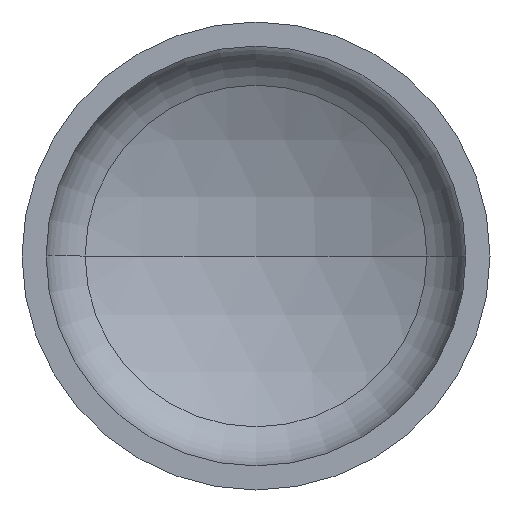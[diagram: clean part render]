
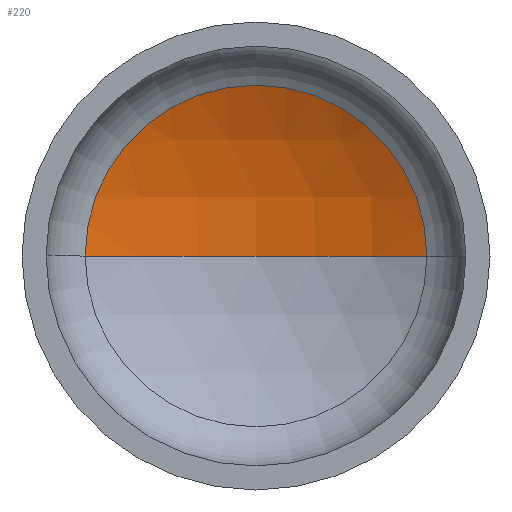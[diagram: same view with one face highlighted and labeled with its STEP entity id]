
A CAD part, front view. The second image highlights one B-rep face of the part: STEP entity #220.
In plain terms, the highlighted spherical face has radius 1120 mm.
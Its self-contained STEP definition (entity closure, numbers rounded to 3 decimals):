
#41 = EDGE_LOOP ( 'NONE', ( #214, #108, #58 ) ) ;
#44 = VERTEX_POINT ( 'NONE', #262 ) ;
#58 = ORIENTED_EDGE ( 'NONE', *, *, #202, .T. ) ;
#91 = VERTEX_POINT ( 'NONE', #258 ) ;
#96 = CARTESIAN_POINT ( 'NONE',  ( 0., 311.307, 0. ) ) ;
#98 = AXIS2_PLACEMENT_3D ( 'NONE', #285, #309, #157 ) ;
#108 = ORIENTED_EDGE ( 'NONE', *, *, #205, .T. ) ;
#109 = AXIS2_PLACEMENT_3D ( 'NONE', #226, #229, #278 ) ;
#110 = AXIS2_PLACEMENT_3D ( 'NONE', #181, #174, #215 ) ;
#111 = FACE_OUTER_BOUND ( 'NONE', #41, .T. ) ;
#112 = AXIS2_PLACEMENT_3D ( 'NONE', #96, #195, #177 ) ;
#132 = CIRCLE ( 'NONE', #112, 511.116 ) ;
#152 = VERTEX_POINT ( 'NONE', #332 ) ;
#157 = DIRECTION ( 'NONE',  ( -1., 0., 0. ) ) ;
#174 = DIRECTION ( 'NONE',  ( 0., 0., -1. ) ) ;
#177 = DIRECTION ( 'NONE',  ( 1., 0., 0. ) ) ;
#181 = CARTESIAN_POINT ( 'NONE',  ( 0., -685.268, 0. ) ) ;
#195 = DIRECTION ( 'NONE',  ( 0., -1., 0. ) ) ;
#202 = EDGE_CURVE ( 'NONE', #91, #152, #132, .T. ) ;
#205 = EDGE_CURVE ( 'NONE', #44, #91, #395, .T. ) ;
#206 = EDGE_CURVE ( 'NONE', #44, #152, #353, .T. ) ;
#214 = ORIENTED_EDGE ( 'NONE', *, *, #206, .F. ) ;
#215 = DIRECTION ( 'NONE',  ( -1., 0., 0. ) ) ;
#220 = ADVANCED_FACE ( 'NONE', ( #111 ), #346, .F. ) ;
#226 = CARTESIAN_POINT ( 'NONE',  ( 0., -685.268, 0. ) ) ;
#229 = DIRECTION ( 'NONE',  ( 0., 0., 1. ) ) ;
#258 = CARTESIAN_POINT ( 'NONE',  ( 511.116, 311.307, 0. ) ) ;
#262 = CARTESIAN_POINT ( 'NONE',  ( 0., 434.732, 0. ) ) ;
#278 = DIRECTION ( 'NONE',  ( 1., 0., 0. ) ) ;
#285 = CARTESIAN_POINT ( 'NONE',  ( 0., -685.268, 0. ) ) ;
#309 = DIRECTION ( 'NONE',  ( 0., 0., -1. ) ) ;
#332 = CARTESIAN_POINT ( 'NONE',  ( -511.116, 311.307, 0. ) ) ;
#346 = SPHERICAL_SURFACE ( 'NONE', #98, 1120. ) ;
#353 = CIRCLE ( 'NONE', #109, 1120. ) ;
#395 = CIRCLE ( 'NONE', #110, 1120. ) ;
